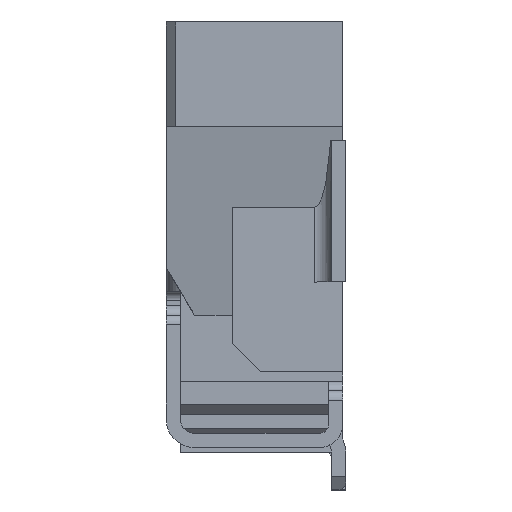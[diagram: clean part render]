
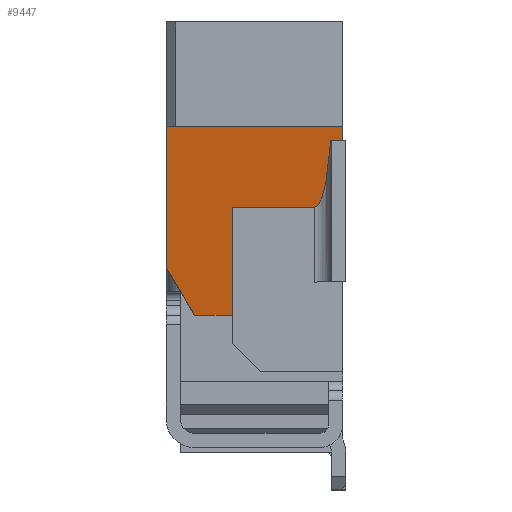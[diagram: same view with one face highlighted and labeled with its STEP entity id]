
A CAD part, left-side view. The second image highlights one B-rep face of the part: STEP entity #9447.
In plain terms, the highlighted planar face has unit normal (-0.985, 0, -0.172).
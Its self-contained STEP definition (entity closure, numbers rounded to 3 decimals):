
#239 = VERTEX_POINT ( 'NONE', #490 ) ;
#241 = VERTEX_POINT ( 'NONE', #492 ) ;
#244 = VERTEX_POINT ( 'NONE', #495 ) ;
#246 = VERTEX_POINT ( 'NONE', #497 ) ;
#248 = VERTEX_POINT ( 'NONE', #499 ) ;
#262 = VERTEX_POINT ( 'NONE', #513 ) ;
#263 = VERTEX_POINT ( 'NONE', #514 ) ;
#490 = CARTESIAN_POINT ( 'NONE',  ( -5.873, 1.9, 0.375 ) ) ;
#492 = CARTESIAN_POINT ( 'NONE',  ( -6.135, 1.9, 1.875 ) ) ;
#495 = CARTESIAN_POINT ( 'NONE',  ( -5.785, 1.6, -0.125 ) ) ;
#497 = CARTESIAN_POINT ( 'NONE',  ( -5.985, 1.2, 1.018 ) ) ;
#499 = CARTESIAN_POINT ( 'NONE',  ( -6.109, 0.159, 1.725 ) ) ;
#513 = CARTESIAN_POINT ( 'NONE',  ( -5.985, 0.33, 1.018 ) ) ;
#514 = CARTESIAN_POINT ( 'NONE',  ( -6.135, 0.03, 1.875 ) ) ;
#552 =( BOUNDED_CURVE ( )  B_SPLINE_CURVE ( 3, ( #3639, #3636, #3642, #3643 ),
 .UNSPECIFIED., .F., .F. ) 
 B_SPLINE_CURVE_WITH_KNOTS ( ( 4, 4 ),
 ( 5.03, 6.283 ),
 .UNSPECIFIED. ) 
 CURVE ( )  GEOMETRIC_REPRESENTATION_ITEM ( )  RATIONAL_B_SPLINE_CURVE ( ( 1., 0.873, 0.873, 1. ) ) 
 REPRESENTATION_ITEM ( '' )  );
#621 = EDGE_CURVE ( 'NONE', #10577, #248, #10249, .T. ) ;
#622 = EDGE_CURVE ( 'NONE', #241, #239, #10251, .T. ) ;
#642 = EDGE_CURVE ( 'NONE', #263, #10577, #10286, .T. ) ;
#644 = EDGE_CURVE ( 'NONE', #263, #241, #10287, .T. ) ;
#645 = EDGE_CURVE ( 'NONE', #244, #239, #10290, .T. ) ;
#656 = EDGE_CURVE ( 'NONE', #10573, #244, #10308, .T. ) ;
#771 = EDGE_CURVE ( 'NONE', #248, #262, #552, .T. ) ;
#828 = EDGE_CURVE ( 'NONE', #246, #262, #9995, .T. ) ;
#2056 = AXIS2_PLACEMENT_3D ( 'NONE', #8382, #8390, #8391 ) ;
#2563 = CARTESIAN_POINT ( 'NONE',  ( -6.109, 1.25, 1.725 ) ) ;
#2573 = CARTESIAN_POINT ( 'NONE',  ( -6.135, 1.9, 1.875 ) ) ;
#2580 = DIRECTION ( 'NONE',  ( 0., 1., 0. ) ) ;
#2584 = DIRECTION ( 'NONE',  ( 0.172, 0., -0.985 ) ) ;
#3636 = CARTESIAN_POINT ( 'NONE',  ( -6.032, 0.184, 1.288 ) ) ;
#3639 = CARTESIAN_POINT ( 'NONE',  ( -6.109, 0.159, 1.725 ) ) ;
#3642 = CARTESIAN_POINT ( 'NONE',  ( -5.985, 0.249, 1.018 ) ) ;
#3643 = CARTESIAN_POINT ( 'NONE',  ( -5.985, 0.33, 1.018 ) ) ;
#3822 = CARTESIAN_POINT ( 'NONE',  ( -6.135, 1.25, 1.875 ) ) ;
#3824 = CARTESIAN_POINT ( 'NONE',  ( -6.135, 0.03, 1.875 ) ) ;
#3825 = DIRECTION ( 'NONE',  ( 0.172, 0., -0.985 ) ) ;
#3829 = DIRECTION ( 'NONE',  ( 0., 1., 0. ) ) ;
#3830 = CARTESIAN_POINT ( 'NONE',  ( -5.861, 1.86, 0.308 ) ) ;
#3832 = DIRECTION ( 'NONE',  ( -0.148, 0.509, 0.848 ) ) ;
#3845 = CARTESIAN_POINT ( 'NONE',  ( -5.785, 1.25, -0.125 ) ) ;
#3853 = DIRECTION ( 'NONE',  ( 0., 1., 0. ) ) ;
#4019 = LINE ( 'NONE', #7050, #4022 ) ;
#4022 = VECTOR ( 'NONE', #7051, 1000. ) ;
#4381 = FACE_OUTER_BOUND ( 'NONE', #10590, .T. ) ;
#5895 = ORIENTED_EDGE ( 'NONE', *, *, #828, .T. ) ;
#5896 = ORIENTED_EDGE ( 'NONE', *, *, #771, .F. ) ;
#5897 = ORIENTED_EDGE ( 'NONE', *, *, #621, .F. ) ;
#5898 = ORIENTED_EDGE ( 'NONE', *, *, #642, .F. ) ;
#5899 = ORIENTED_EDGE ( 'NONE', *, *, #644, .T. ) ;
#5900 = ORIENTED_EDGE ( 'NONE', *, *, #622, .T. ) ;
#5901 = ORIENTED_EDGE ( 'NONE', *, *, #645, .F. ) ;
#7050 = CARTESIAN_POINT ( 'NONE',  ( -6.135, 1.2, 1.875 ) ) ;
#7051 = DIRECTION ( 'NONE',  ( 0.172, 0., -0.985 ) ) ;
#8382 = CARTESIAN_POINT ( 'NONE',  ( -6.135, 1.25, 1.875 ) ) ;
#8387 = PLANE ( 'NONE',  #2056 ) ;
#8390 = DIRECTION ( 'NONE',  ( 0.985, 0., 0.172 ) ) ;
#8391 = DIRECTION ( 'NONE',  ( 0.172, 0., -0.985 ) ) ;
#9218 = EDGE_CURVE ( 'NONE', #246, #10573, #4019, .T. ) ;
#9447 = ADVANCED_FACE ( 'NONE', ( #4381 ), #8387, .F. ) ;
#9788 = ORIENTED_EDGE ( 'NONE', *, *, #656, .F. ) ;
#9789 = ORIENTED_EDGE ( 'NONE', *, *, #9218, .F. ) ;
#9995 = LINE ( 'NONE', #11357, #9998 ) ;
#9998 = VECTOR ( 'NONE', #11358, 1000. ) ;
#10249 = LINE ( 'NONE', #2563, #10255 ) ;
#10251 = LINE ( 'NONE', #2573, #10257 ) ;
#10255 = VECTOR ( 'NONE', #2580, 1000. ) ;
#10257 = VECTOR ( 'NONE', #2584, 1000. ) ;
#10284 = VECTOR ( 'NONE', #3825, 1000. ) ;
#10286 = LINE ( 'NONE', #3824, #10284 ) ;
#10287 = LINE ( 'NONE', #3822, #10291 ) ;
#10290 = LINE ( 'NONE', #3830, #10293 ) ;
#10291 = VECTOR ( 'NONE', #3829, 1000. ) ;
#10293 = VECTOR ( 'NONE', #3832, 1000. ) ;
#10308 = LINE ( 'NONE', #3845, #10315 ) ;
#10315 = VECTOR ( 'NONE', #3853, 1000. ) ;
#10573 = VERTEX_POINT ( 'NONE', #10852 ) ;
#10577 = VERTEX_POINT ( 'NONE', #10856 ) ;
#10590 = EDGE_LOOP ( 'NONE', ( #9788, #9789, #5895, #5896, #5897, #5898, #5899, #5900, #5901 ) ) ;
#10852 = CARTESIAN_POINT ( 'NONE',  ( -5.785, 1.2, -0.125 ) ) ;
#10856 = CARTESIAN_POINT ( 'NONE',  ( -6.109, 0.03, 1.725 ) ) ;
#11357 = CARTESIAN_POINT ( 'NONE',  ( -5.985, 1.25, 1.018 ) ) ;
#11358 = DIRECTION ( 'NONE',  ( 0., -1., 0. ) ) ;
